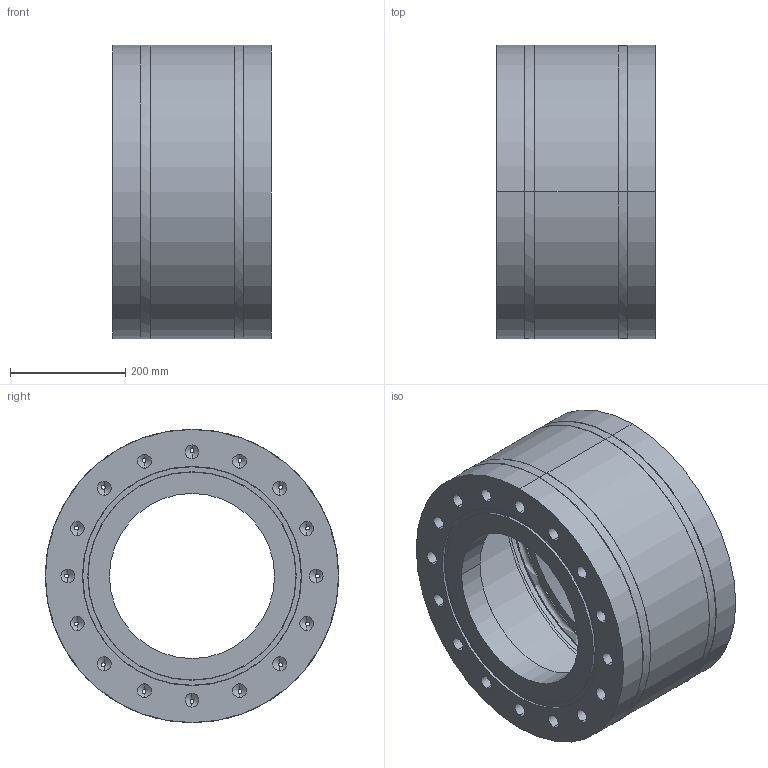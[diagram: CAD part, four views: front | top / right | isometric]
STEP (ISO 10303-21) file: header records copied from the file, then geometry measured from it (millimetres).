
FILE_DESCRIPTION (( 'STEP AP214' ), '1' );
FILE_NAME ('RVZ3139xC25A5A05500_DN300_DIN-RR-Nut_PS25.STEP', '2009-11-10T10:09:14', ( 'Eckhard Grams' ), ( 'AWP Kälte Klima Armaturen GmbH' ), 'SwSTEP 2.0', 'SolidWorks 2002296', '' );
FILE_SCHEMA (( 'AUTOMOTIVE_DESIGN' ));
Length unit declared in the file: millimetre
Products named in the file (7): RVZ3139xC25A5A05500_DN300_DIN-RR-Nut_PS25; Geh,kpl 31391B25-5030554_DIN-FL-RR-Nut_PS25_Standard; Eintr-FL 31391B25-5433004_DN300_DIN-FL_PS25_E-FL in Geh,kpl  31391E25-5030551 RR-Nut; Geh 31391E25-5034004_DN300_PS40_Standard; Austr-FL 31391B25-5436004_DN300_DIN-FL_PS25_A-FL in Geh,kpl 31391E25-5030551 RR-Ring; bead Geh,kpl 31391E25-2_Standard; bead Geh,kpl 31391E25-1_Standard
Assembly tree (6 placements, depth 3):
  RVZ3139xC25A5A05500_DN300_DIN-RR-Nut_PS25
    Geh,kpl 31391B25-5030554_DIN-FL-RR-Nut_PS25_Standard
      bead Geh,kpl 31391E25-2_Standard
      Austr-FL 31391B25-5436004_DN300_DIN-FL_PS25_A-FL in Geh,kpl 31391E25-5030551 RR-Ring
      bead Geh,kpl 31391E25-1_Standard
      Eintr-FL 31391B25-5433004_DN300_DIN-FL_PS25_E-FL in Geh,kpl  31391E25-5030551 RR-Nut
      Geh 31391E25-5034004_DN300_PS40_Standard
Bounding box: 275 x 508 x 508 mm (x, y, z)
Volume: 16205626.2 mm3; surface area: 1654199.9 mm2
Topology: 5 solids, 5 shells, 353 faces, 937 edges, 584 vertices
Faces by surface type: cone 128, cylinder 122, plane 81, torus 14, bspline 8
Entity records: 16878 total; most frequent: CARTESIAN_POINT 7970, ORIENTED_EDGE 1874, DIRECTION 1789, EDGE_CURVE 937, AXIS2_PLACEMENT_3D 753, VERTEX_POINT 584, EDGE_LOOP 417, CIRCLE 398
